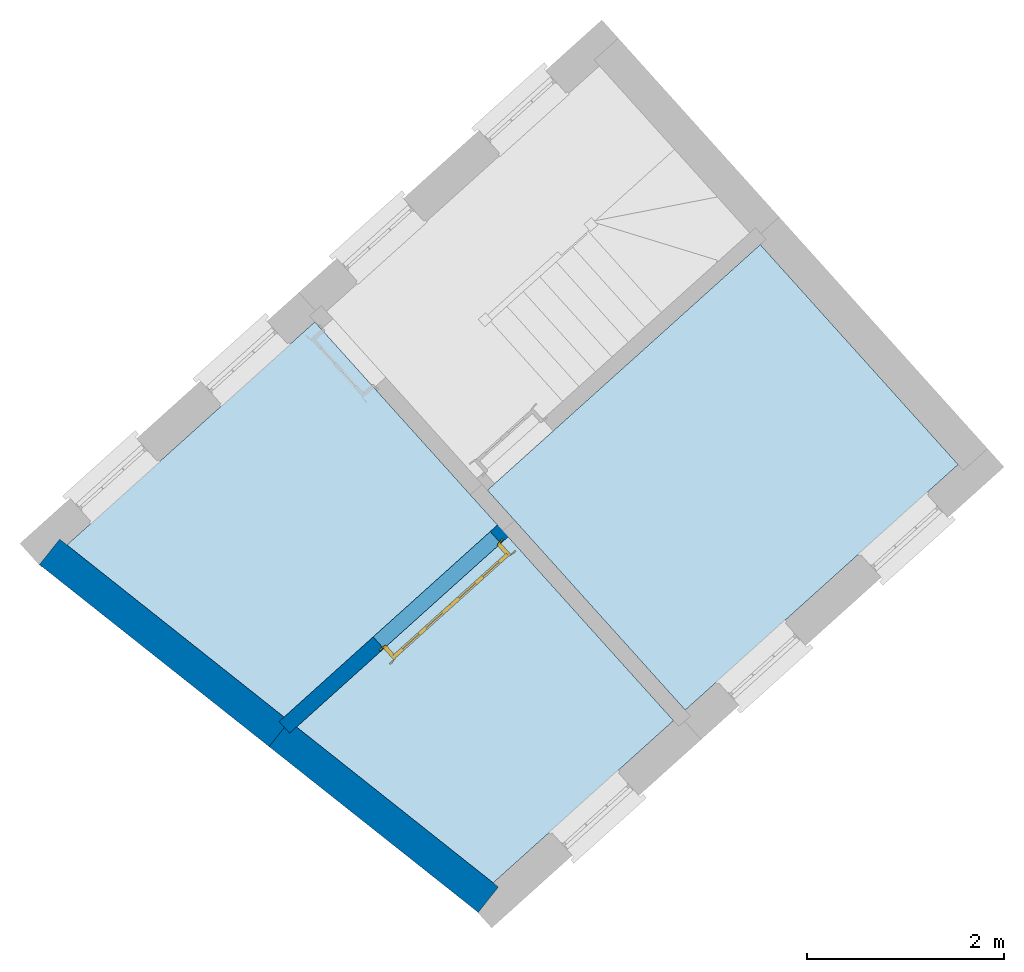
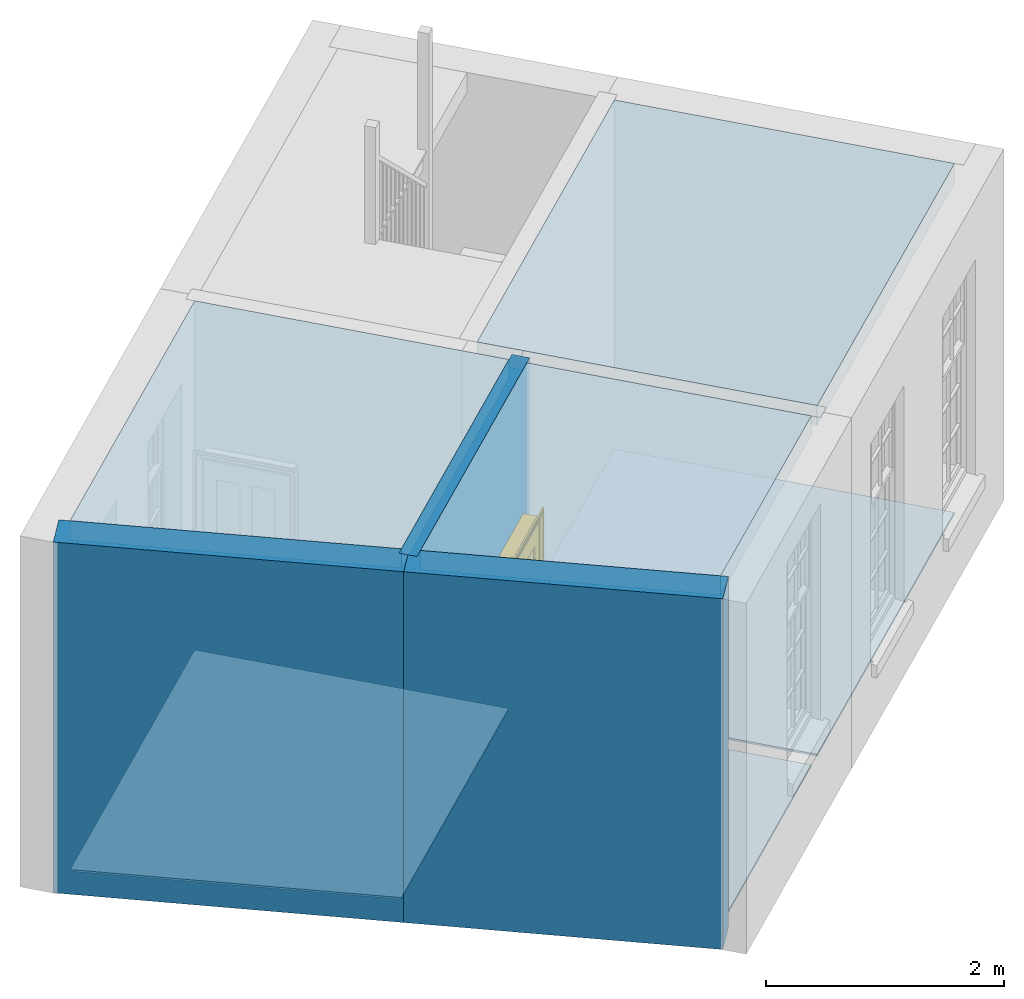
# One storey, part 1 of 4: 6 slabs, 3 walls, 1 door, 1 opening.
"""IFC4 building model written with IfcOpenShell, lengths in metres."""

from ifc_helpers import new_model, si_unit, frame, origin, origin_with_axes, place, context, subcontext, project, spatial, polyline, outline, extrude, faceted_brep, source, transform, mapped, material, layer, layer_set, layer_usage, type_object, type_shapes, element, fill, save


model = new_model("IFC4")

# Units and contexts
model_context = context("Model", 3, world=origin_with_axes())
body_context = subcontext(model_context, "Body", "Model", "MODEL_VIEW")
ifc_project = project(units=[si_unit("PLANEANGLEUNIT", "RADIAN"), si_unit("MASSUNIT", "GRAM", prefix="KILO"), si_unit("FORCEUNIT", "NEWTON", prefix="KILO"), si_unit("LENGTHUNIT", "METRE"), si_unit("AREAUNIT", "SQUARE_METRE"), si_unit("VOLUMEUNIT", "CUBIC_METRE")], contexts=[model_context, model_context])

# Sites, building, storey
site_1_placement = place(None, origin_with_axes())
site_1 = spatial("IfcSite", under=ifc_project, at=site_1_placement, Name="Tamar")
site_2_placement = place(site_1_placement, origin_with_axes())
site_2 = spatial("IfcSite", under=site_1, at=site_2_placement, Name="Site plot-6", CompositionType="ELEMENT")
building_placement = place(None, origin_with_axes())
building = spatial("IfcBuilding", under=site_2, at=building_placement, Name="Building plot-6", CompositionType="ELEMENT")
storey_placement = place(None, frame((0.0, 0.0, 28.1), z_axis=(0.0, 0.0, 1.0), x_axis=(1.0, 0.0, 0.0)))
storey = spatial("IfcBuildingStorey", under=building, at=storey_placement, Name="plot-6 1", CompositionType="ELEMENT", Elevation=28.1)

# Slabs
slab_1_placement = place(storey_placement, frame((238.531757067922, 282.862532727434, 3.4)))
element("IfcSlab", 1, at=slab_1_placement, inside=storey, Name="My Slab", ObjectType="Slab", PredefinedType="FLOOR", context=body_context, shape_type="SweptSolid", body=[
    extrude(outline(polyline([(0.0, 0.0), (-2.77333065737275, -2.49524804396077), (-0.762267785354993, -4.7304335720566), (2.01106287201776, -2.23518552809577), (0.0, 0.0)])), origin_with_axes(), (0.0, 0.0, 1.0), 0.2),
])
slab_2_placement = place(storey_placement, frame((238.531757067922, 282.862532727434, 0.0)))
element("IfcSlab", 2, at=slab_2_placement, inside=storey, Name="My Slab", ObjectType="Slab", PredefinedType="FLOOR", context=body_context, shape_type="SweptSolid", body=[
    extrude(outline(polyline([(0.0, 0.0), (-2.77333065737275, -2.49524804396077), (-0.762267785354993, -4.7304335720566), (2.01106287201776, -2.23518552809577), (0.0, 0.0)])), origin_with_axes(), (0.0, 0.0, 1.0), 0.02),
])
slab_3_placement = place(storey_placement, frame((235.968900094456, 279.8941395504, 3.4)))
element("IfcSlab", 3, at=slab_3_placement, inside=storey, Name="My Slab", ObjectType="Slab", PredefinedType="FLOOR", context=body_context, shape_type="SweptSolid", body=[
    extrude(outline(polyline([(0.0, 0.0), (-2.14924424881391, -1.93373894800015), (-0.150864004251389, -3.51782084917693), (1.68164614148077, -1.86905699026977), (0.0, 0.0)])), origin_with_axes(), (0.0, 0.0, 1.0), 0.2),
])
slab_4_placement = place(storey_placement, frame((235.968900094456, 279.8941395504, 0.0)))
element("IfcSlab", 4, at=slab_4_placement, inside=storey, Name="My Slab", ObjectType="Slab", PredefinedType="FLOOR", context=body_context, shape_type="SweptSolid", body=[
    extrude(outline(polyline([(0.0, 0.0), (-2.14924424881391, -1.93373894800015), (-0.150864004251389, -3.51782084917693), (1.68164614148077, -1.86905699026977), (0.0, 0.0)])), origin_with_axes(), (0.0, 0.0, 1.0), 0.02),
])
slab_5_placement = place(storey_placement, frame((233.692482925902, 278.061208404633, 3.4)))
element("IfcSlab", 5, at=slab_5_placement, inside=storey, Name="My Slab", ObjectType="Slab", PredefinedType="FLOOR", context=body_context, shape_type="SweptSolid", body=[
    extrude(outline(polyline([(0.0, 0.0), (2.16940057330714, 1.9518741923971), (0.312366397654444, 4.01586531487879), (-2.20680220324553, 1.74929442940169), (0.0, 0.0)])), origin_with_axes(), (0.0, 0.0, 1.0), 0.2),
])
slab_6_placement = place(storey_placement, frame((233.692482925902, 278.061208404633, 0.0)))
element("IfcSlab", 6, at=slab_6_placement, inside=storey, Name="My Slab", ObjectType="Slab", PredefinedType="FLOOR", context=body_context, shape_type="SweptSolid", body=[
    extrude(outline(polyline([(0.0, 0.0), (2.16940057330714, 1.9518741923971), (0.312366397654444, 4.01586531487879), (-2.20680220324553, 1.74929442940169), (0.0, 0.0)])), origin_with_axes(), (0.0, 0.0, 1.0), 0.02),
])

# Walls
ifc_material_1 = material(Name="Masonry")
ifc_layer_1 = layer(ifc_material_1, 0.33, ventilated=False)
ifc_layer_set_1 = layer_set([ifc_layer_1], Name="party_0.08_0.25")
ifc_layer_usage_1 = layer_usage(ifc_layer_set_1, "AXIS2", "POSITIVE", -0.25)
wall_type_1 = type_object("IfcWallType", Name="party_0.08_0.25", PredefinedType="SOLIDWALL", material=ifc_layer_set_1)
wall_1_placement = place(storey_placement, frame((231.361774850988, 279.806635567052, 0.0), z_axis=(0.0, 0.0, 1.0), x_axis=(0.783658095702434, -0.621192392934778, 0.0)))
element("IfcWall", 7, at=wall_1_placement, inside=storey, type_object=wall_type_1, material=ifc_layer_usage_1, Name="party", context=body_context, shape_type="SweptSolid", body=[
    extrude(outline(polyline([(3.27339517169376e-15, 0.0800000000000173), (-1.11481545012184e-14, -0.249999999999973), (2.97830793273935, -0.249999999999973), (2.97830793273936, 0.0800000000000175), (3.27339517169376e-15, 0.0800000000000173)])), origin_with_axes(), (0.0, 0.0, 1.0), 3.6),
])
wall_2_placement = place(storey_placement, frame((233.695749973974, 277.956533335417, 0.0), z_axis=(0.0, 0.0, 1.0), x_axis=(0.783658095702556, -0.621192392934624, 0.0)))
element("IfcWall", 8, at=wall_2_placement, inside=storey, type_object=wall_type_1, material=ifc_layer_usage_1, Name="party", context=body_context, shape_type="SweptSolid", body=[
    extrude(outline(polyline([(1.90119167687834e-14, 0.0800000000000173), (-6.0220012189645e-14, -0.249999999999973), (2.71234761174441, -0.25), (2.71234761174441, 0.0799999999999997), (1.90119167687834e-14, 0.0800000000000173)])), origin_with_axes(), (0.0, 0.0, 1.0), 3.6),
])

# Wall, opening, door
ifc_material_2 = material(Name="Masonry")
ifc_layer_2 = layer(ifc_material_2, 0.16, ventilated=False)
ifc_layer_set_2 = layer_set([ifc_layer_2], Name="interior_0.08_0.08")
ifc_layer_usage_2 = layer_usage(ifc_layer_set_2, "AXIS2", "POSITIVE", -0.08)
wall_type_2 = type_object("IfcWallType", Name="interior_0.08_0.08", PredefinedType="SOLIDWALL", material=ifc_layer_set_2)
wall_3_placement = place(storey_placement, frame((235.974863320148, 280.007119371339, 0.0), z_axis=(0.0, 0.0, 1.0), x_axis=(-0.743394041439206, -0.668853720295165, 0.0)))
wall_3 = element("IfcWall", 9, at=wall_3_placement, inside=storey, type_object=wall_type_2, material=ifc_layer_usage_2, Name="interior", context=body_context, shape_type="SweptSolid", body=[
    extrude(outline(polyline([(1.4835647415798e-14, 0.0800000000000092), (-1.48454445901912e-14, -0.0800000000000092), (3.06582138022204, -0.0800000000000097), (3.06582138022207, 0.0800000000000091), (1.4835647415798e-14, 0.0800000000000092)])), origin_with_axes(), (0.0, 0.0, 1.0), 3.6),
])
opening_placement = place(wall_3_placement, frame((0.179999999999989, 0.0, 0.0199999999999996)))
opening = element("IfcOpeningElement", 10, at=opening_placement, cuts=wall_3, Name="My Opening", ObjectType="Opening", context=body_context, shape_type="SweptSolid", body=[
    extrude(outline(polyline([(0.0, -0.0999999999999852), (1.60000000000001, -0.09999999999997), (1.60000000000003, 1.10000000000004), (2.79776202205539e-14, 1.10000000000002), (0.0, -0.0999999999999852)])), origin_with_axes(), (0.0, 0.0, 1.0), 2.1),
])
door_type = type_object("IfcDoorType", Name="door_inside_double", OperationType="SINGLE_SWING_LEFT", PredefinedType="NOTDEFINED")
shared_shape = source(origin(), body_context, "Body", "Brep", [
    faceted_brep([(0.14, 0.307, 1.895), (0.14, 0.307, 0.82), (0.363, 0.307, 0.82), (0.363, 0.307, 1.895), (0.14, 0.292, 1.895), (0.14, 0.292, 0.82), (0.363, 0.292, 0.82), (0.363, 0.292, 1.895), (0.027, 0.292, 1.895), (0.027, 0.292, 0.82), (0.363, 0.292, 0.62), (0.14, 0.292, 0.62), (0.463, 0.292, 0.82), (0.463, 0.292, 1.895), (0.363, 0.292, 2.073), (0.14, 0.292, 2.073), (0.027, 0.292, 2.073), (0.027, 0.33, 1.895), (0.027, 0.33, 0.82), (0.027, 0.292, 0.62), (0.463, 0.292, 0.62), (0.14, 0.307, 0.62), (0.363, 0.307, 0.62), (0.463, 0.307, 0.82), (0.463, 0.307, 1.895), (0.463, 0.292, 2.073), (0.14, 0.33, 2.073), (0.363, 0.33, 2.073), (0.027, 0.33, 2.073), (0.14, 0.33, 1.895), (0.14, 0.33, 0.82), (0.027, 0.33, 0.62), (0.027, 0.292, 0.225), (0.14, 0.292, 0.225), (0.363, 0.292, 0.225), (0.463, 0.292, 0.225), (0.686, 0.292, 0.62), (0.686, 0.292, 0.82), (0.14, 0.307, 0.225), (0.363, 0.307, 0.225), (0.686, 0.307, 0.82), (0.686, 0.307, 1.895), (0.686, 0.292, 1.895), (0.686, 0.292, 2.073), (0.463, 0.33, 2.073), (0.363, 0.33, 1.895), (0.14, 0.315, 1.895), (0.14, 0.315, 0.82), (0.14, 0.33, 0.62), (0.027, 0.33, 0.225), (0.027, 0.292, 0.0), (0.14, 0.292, 0.0), (0.363, 0.292, 0.0), (0.463, 0.292, 0.0), (0.463, 0.307, 0.225), (0.463, 0.307, 0.62), (0.686, 0.307, 0.62), (0.799, 0.292, 0.62), (0.799, 0.292, 0.82), (0.799, 0.292, 1.895), (0.799, 0.292, 2.073), (0.686, 0.33, 2.073), (0.463, 0.33, 1.895), (0.363, 0.315, 1.895), (0.363, 0.315, 0.82), (0.363, 0.33, 0.82), (0.363, 0.33, 0.62), (0.14, 0.33, 0.225), (0.027, 0.33, 0.0), (0.14, 0.33, 0.0), (0.363, 0.33, 0.0), (0.463, 0.33, 0.0), (0.686, 0.292, 0.0), (0.686, 0.292, 0.225), (0.686, 0.307, 0.225), (0.799, 0.292, 0.225), (0.799, 0.33, 0.62), (0.799, 0.33, 0.82), (0.799, 0.33, 1.895), (0.799, 0.33, 2.073), (0.686, 0.33, 1.895), (0.463, 0.33, 0.82), (0.463, 0.33, 0.62), (0.363, 0.315, 0.62), (0.14, 0.315, 0.62), (0.14, 0.315, 0.225), (0.363, 0.33, 0.225), (0.463, 0.33, 0.225), (0.686, 0.33, 0.0), (0.799, 0.292, 0.0), (0.799, 0.33, 0.225), (0.686, 0.33, 0.62), (0.686, 0.33, 0.82), (0.686, 0.315, 1.895), (0.463, 0.315, 1.895), (0.463, 0.315, 0.82), (0.363, 0.315, 0.225), (0.686, 0.33, 0.225), (0.799, 0.33, 0.0), (0.686, 0.315, 0.82), (0.463, 0.315, 0.62), (0.463, 0.315, 0.225), (0.686, 0.315, 0.62), (0.686, 0.315, 0.225), (1.46, 0.33, 1.895), (1.237, 0.33, 1.895), (1.237, 0.33, 2.073), (1.46, 0.33, 2.073), (1.46, 0.315, 1.895), (1.237, 0.315, 1.895), (1.137, 0.33, 1.895), (1.137, 0.33, 2.073), (1.237, 0.292, 2.073), (1.46, 0.292, 2.073), (1.573, 0.33, 1.895), (1.573, 0.33, 2.073), (1.46, 0.33, 0.82), (1.46, 0.315, 0.82), (1.237, 0.315, 0.82), (1.237, 0.33, 0.82), (1.137, 0.33, 0.82), (0.914, 0.33, 2.073), (0.914, 0.33, 1.895), (1.137, 0.292, 2.073), (1.237, 0.292, 1.895), (1.46, 0.292, 1.895), (1.573, 0.292, 2.073), (1.573, 0.33, 0.82), (1.573, 0.292, 1.895), (1.237, 0.33, 0.62), (1.137, 0.33, 0.62), (1.137, 0.315, 0.82), (1.137, 0.315, 1.895), (0.914, 0.292, 2.073), (0.914, 0.315, 1.895), (0.801, 0.33, 2.073), (0.801, 0.33, 1.895), (1.137, 0.292, 1.895), (1.237, 0.307, 1.895), (1.46, 0.307, 1.895), (1.573, 0.292, 0.82), (1.573, 0.33, 0.62), (1.46, 0.33, 0.62), (1.237, 0.33, 0.225), (1.137, 0.33, 0.225), (0.914, 0.33, 0.82), (0.914, 0.33, 0.62), (0.914, 0.315, 0.82), (0.801, 0.292, 2.073), (0.914, 0.292, 1.895), (0.801, 0.33, 0.82), (0.801, 0.292, 1.895), (1.137, 0.292, 0.82), (1.237, 0.292, 0.82), (1.237, 0.307, 0.82), (1.46, 0.307, 0.82), (1.46, 0.292, 0.82), (1.573, 0.292, 0.62), (1.573, 0.33, 0.225), (1.46, 0.33, 0.225), (1.46, 0.315, 0.62), (1.237, 0.315, 0.62), (1.237, 0.33, 0.0), (1.137, 0.33, 0.0), (1.137, 0.315, 0.225), (1.137, 0.315, 0.62), (1.237, 0.315, 0.225), (0.914, 0.315, 0.62), (0.801, 0.33, 0.62), (0.914, 0.307, 1.895), (1.137, 0.307, 1.895), (0.801, 0.292, 0.82), (1.137, 0.292, 0.62), (1.237, 0.292, 0.62), (1.137, 0.307, 0.82), (1.46, 0.292, 0.62), (1.573, 0.292, 0.225), (1.573, 0.33, 0.0), (1.46, 0.33, 0.0), (1.46, 0.315, 0.225), (1.237, 0.292, 0.0), (1.137, 0.292, 0.0), (0.914, 0.33, 0.225), (0.914, 0.33, 0.0), (0.914, 0.315, 0.225), (0.801, 0.33, 0.225), (0.801, 0.292, 0.62), (0.914, 0.292, 0.82), (0.914, 0.307, 0.82), (1.137, 0.292, 0.225), (1.237, 0.292, 0.225), (0.914, 0.292, 0.62), (1.46, 0.292, 0.225), (1.573, 0.292, 0.0), (1.46, 0.292, 0.0), (0.914, 0.292, 0.0), (0.801, 0.33, 0.0), (0.801, 0.292, 0.225), (1.237, 0.307, 0.225), (1.237, 0.307, 0.62), (1.137, 0.307, 0.62), (1.137, 0.307, 0.225), (1.46, 0.307, 0.62), (0.914, 0.307, 0.62), (1.46, 0.307, 0.225), (0.914, 0.292, 0.225), (0.801, 0.292, 0.0), (0.914, 0.307, 0.225), (0.02, 0.335, 0.0), (0.005, 0.34, 0.0), (0.005, 0.34, 2.095), (0.02, 0.335, 2.08), (0.02, 0.33, 0.0), (0.0, 0.335, 0.0), (0.0, 0.335, 2.1), (1.595, 0.34, 2.095), (1.58, 0.335, 2.08), (0.02, 0.33, 2.08), (0.0, 0.33, 0.0), (-0.032, 0.345, 0.0), (-0.032, 0.345, 2.132), (1.6, 0.335, 2.1), (1.595, 0.34, 0.0), (1.58, 0.335, 0.0), (1.58, 0.33, 2.08), (0.025, 0.33, 0.0), (0.025, 0.33, 2.075), (-0.04, 0.34, 0.0), (0.025, 0.29, 0.0), (0.0, 0.17, 0.0), (-0.04, 0.34, 2.14), (1.632, 0.345, 2.132), (1.6, 0.335, 0.0), (1.58, 0.33, 0.0), (1.575, 0.33, 2.075), (0.025, 0.29, 2.075), (-0.06, 0.33, 0.0), (0.035, 0.17, 0.0), (0.0, 0.17, 2.1), (0.0, 0.33, 2.1), (-0.04, 0.345, 0.0), (-0.04, 0.345, 2.14), (1.64, 0.34, 2.14), (1.632, 0.345, 0.0), (1.6, 0.33, 0.0), (1.575, 0.33, 0.0), (1.575, 0.29, 2.075), (0.04, 0.29, 0.0), (0.04, 0.29, 2.06), (-0.06, 0.345, 0.0), (-0.06, 0.33, 2.16), (0.015, 0.165, 0.0), (0.04, 0.17, 0.0), (-0.045, 0.17, 2.145), (-0.045, 0.17, 0.0), (1.6, 0.17, 2.1), (1.6, 0.33, 2.1), (-0.06, 0.345, 2.16), (1.64, 0.345, 2.14), (1.64, 0.34, 0.0), (1.6, 0.17, 0.0), (1.575, 0.29, 0.0), (1.56, 0.29, 2.06), (0.04, 0.17, 2.06), (1.66, 0.33, 2.16), (-0.017, 0.155, 0.0), (-0.025, 0.16, 0.0), (0.02, 0.16, 0.0), (0.035, 0.165, 0.0), (0.035, 0.17, 2.065), (1.645, 0.17, 2.145), (-0.045, 0.155, 2.145), (-0.045, 0.155, 0.0), (1.66, 0.345, 2.16), (1.64, 0.345, 0.0), (1.66, 0.33, 0.0), (1.565, 0.17, 0.0), (1.56, 0.29, 0.0), (1.56, 0.17, 2.06), (-0.017, 0.155, 2.117), (-0.025, 0.16, 2.125), (0.015, 0.165, 2.085), (0.02, 0.16, 2.08), (0.035, 0.165, 2.065), (1.565, 0.17, 2.065), (1.645, 0.17, 0.0), (1.645, 0.155, 2.145), (-0.025, 0.155, 0.0), (1.66, 0.345, 0.0), (1.585, 0.165, 0.0), (1.56, 0.17, 0.0), (1.617, 0.155, 2.117), (1.625, 0.16, 2.125), (-0.025, 0.155, 2.125), (1.585, 0.165, 2.085), (1.58, 0.16, 2.08), (1.565, 0.165, 2.065), (1.625, 0.16, 0.0), (1.645, 0.155, 0.0), (1.625, 0.155, 2.125), (1.617, 0.155, 0.0), (1.565, 0.165, 0.0), (1.58, 0.16, 0.0), (1.625, 0.155, 0.0)], [[[0, 1, 2, 3]], [[1, 0, 4, 5]], [[2, 1, 5, 6]], [[6, 7, 3, 2]], [[7, 4, 0, 3]], [[4, 8, 9, 5]], [[10, 6, 5, 11]], [[6, 12, 13, 7]], [[14, 15, 4, 7]], [[15, 16, 8, 4]], [[9, 8, 17, 18]], [[5, 9, 19, 11]], [[10, 20, 12, 6]], [[10, 11, 21, 22]], [[13, 12, 23, 24]], [[7, 13, 25, 14]], [[26, 15, 14, 27]], [[28, 16, 15, 26]], [[8, 16, 28, 17]], [[17, 29, 30, 18]], [[18, 31, 19, 9]], [[11, 19, 32, 33]], [[34, 35, 20, 10]], [[20, 36, 37, 12]], [[11, 33, 38, 21]], [[39, 22, 21, 38]], [[34, 10, 22, 39]], [[12, 37, 40, 23]], [[24, 23, 40, 41]], [[42, 13, 24, 41]], [[13, 42, 43, 25]], [[14, 25, 44, 27]], [[26, 27, 45, 29]], [[28, 26, 29, 17]], [[30, 29, 46, 47]], [[18, 30, 48, 31]], [[31, 49, 32, 19]], [[33, 32, 50, 51]], [[52, 53, 35, 34]], [[20, 35, 54, 55]], [[36, 20, 55, 56]], [[36, 57, 58, 37]], [[33, 34, 39, 38]], [[37, 42, 41, 40]], [[42, 59, 60, 43]], [[44, 25, 43, 61]], [[62, 45, 27, 44]], [[29, 45, 63, 46]], [[46, 63, 64, 47]], [[65, 30, 47, 64]], [[30, 65, 66, 48]], [[31, 48, 67, 49]], [[68, 50, 32, 49]], [[68, 69, 51, 50]], [[34, 33, 51, 52]], [[53, 52, 70, 71]], [[53, 72, 73, 35]], [[35, 73, 74, 54]], [[55, 54, 74, 56]], [[73, 36, 56, 74]], [[73, 75, 57, 36]], [[57, 76, 77, 58]], [[37, 58, 59, 42]], [[78, 79, 60, 59]], [[60, 79, 61, 43]], [[80, 62, 44, 61]], [[81, 65, 45, 62]], [[45, 65, 64, 63]], [[82, 66, 65, 81]], [[48, 66, 83, 84]], [[67, 48, 84, 85]], [[49, 67, 69, 68]], [[52, 51, 69, 70]], [[71, 70, 86, 87]], [[72, 53, 71, 88]], [[72, 89, 75, 73]], [[75, 90, 76, 57]], [[76, 91, 92, 77]], [[78, 59, 58, 77]], [[78, 80, 61, 79]], [[62, 80, 93, 94]], [[81, 62, 94, 95]], [[87, 86, 66, 82]], [[91, 82, 81, 92]], [[66, 86, 96, 83]], [[84, 83, 96, 85]], [[86, 67, 85, 96]], [[67, 86, 70, 69]], [[88, 71, 87, 97]], [[89, 72, 88, 98]], [[89, 98, 90, 75]], [[90, 97, 91, 76]], [[80, 78, 77, 92]], [[80, 92, 99, 93]], [[99, 95, 94, 93]], [[92, 81, 95, 99]], [[87, 82, 100, 101]], [[82, 91, 102, 100]], [[97, 87, 101, 103]], [[98, 88, 97, 90]], [[91, 97, 103, 102]], [[103, 101, 100, 102]], [[104, 105, 106, 107]], [[105, 104, 108, 109]], [[105, 110, 111, 106]], [[106, 112, 113, 107]], [[114, 104, 107, 115]], [[104, 116, 117, 108]], [[117, 118, 109, 108]], [[119, 105, 109, 118]], [[119, 120, 110, 105]], [[121, 111, 110, 122]], [[123, 112, 106, 111]], [[124, 125, 113, 112]], [[126, 115, 107, 113]], [[104, 114, 127, 116]], [[114, 115, 126, 128]], [[116, 119, 118, 117]], [[129, 130, 120, 119]], [[110, 120, 131, 132]], [[121, 133, 123, 111]], [[122, 110, 132, 134]], [[135, 121, 122, 136]], [[137, 124, 112, 123]], [[125, 124, 138, 139]], [[125, 128, 126, 113]], [[114, 128, 140, 127]], [[141, 142, 116, 127]], [[142, 129, 119, 116]], [[143, 144, 130, 129]], [[145, 120, 130, 146]], [[120, 145, 147, 131]], [[134, 132, 131, 147]], [[135, 148, 133, 121]], [[123, 133, 149, 137]], [[145, 122, 134, 147]], [[136, 122, 145, 150]], [[151, 148, 135, 136]], [[152, 153, 124, 137]], [[124, 153, 154, 138]], [[138, 154, 155, 139]], [[156, 125, 139, 155]], [[156, 140, 128, 125]], [[157, 141, 127, 140]], [[158, 159, 142, 141]], [[129, 142, 160, 161]], [[162, 163, 144, 143]], [[130, 144, 164, 165]], [[143, 129, 161, 166]], [[146, 130, 165, 167]], [[150, 145, 146, 168]], [[133, 148, 151, 149]], [[137, 149, 169, 170]], [[171, 151, 136, 150]], [[172, 173, 153, 152]], [[152, 137, 170, 174]], [[153, 156, 155, 154]], [[175, 157, 140, 156]], [[176, 158, 141, 157]], [[177, 178, 159, 158]], [[142, 159, 179, 160]], [[179, 166, 161, 160]], [[180, 181, 163, 162]], [[182, 144, 163, 183]], [[178, 162, 143, 159]], [[144, 182, 184, 164]], [[167, 165, 164, 184]], [[159, 143, 166, 179]], [[182, 146, 167, 184]], [[168, 146, 182, 185]], [[150, 168, 186, 171]], [[149, 151, 171, 187]], [[149, 187, 188, 169]], [[169, 188, 174, 170]], [[189, 190, 173, 172]], [[173, 175, 156, 153]], [[172, 152, 187, 191]], [[187, 152, 174, 188]], [[192, 176, 157, 175]], [[193, 177, 158, 176]], [[193, 194, 178, 177]], [[181, 180, 190, 189]], [[181, 195, 183, 163]], [[194, 180, 162, 178]], [[185, 182, 183, 196]], [[168, 185, 197, 186]], [[187, 171, 186, 191]], [[173, 190, 198, 199]], [[189, 172, 200, 201]], [[175, 173, 199, 202]], [[172, 191, 203, 200]], [[194, 193, 176, 192]], [[192, 175, 202, 204]], [[180, 194, 192, 190]], [[189, 205, 195, 181]], [[196, 183, 195, 206]], [[196, 206, 197, 185]], [[191, 186, 197, 205]], [[190, 192, 204, 198]], [[199, 198, 204, 202]], [[201, 200, 203, 207]], [[205, 189, 201, 207]], [[191, 205, 207, 203]], [[205, 197, 206, 195]], [[208, 209, 210, 211]], [[208, 212, 213, 209]], [[209, 213, 214, 210]], [[211, 210, 215, 216]], [[211, 217, 212, 208]], [[218, 213, 212]], [[213, 219, 220, 214]], [[210, 214, 221, 215]], [[216, 215, 222, 223]], [[217, 211, 216, 224]], [[225, 212, 217, 226]], [[219, 213, 218, 227]], [[218, 212, 228, 229]], [[219, 227, 230, 220]], [[214, 220, 231, 221]], [[215, 221, 232, 222]], [[222, 232, 233, 223]], [[224, 216, 223, 233]], [[226, 217, 224, 234]], [[225, 228, 212]], [[235, 228, 225, 226]], [[236, 227, 218]], [[237, 229, 228]], [[229, 238, 239, 218]], [[227, 240, 241, 230]], [[220, 230, 242, 231]], [[221, 231, 243, 232]], [[244, 233, 232]], [[234, 224, 233, 245]], [[246, 235, 226, 234]], [[247, 228, 235, 248]], [[240, 227, 236, 249]], [[239, 250, 236, 218]], [[251, 229, 237]], [[252, 237, 228, 247]], [[253, 238, 229, 254]], [[238, 255, 256, 239]], [[241, 240, 257]], [[230, 241, 258, 242]], [[231, 242, 259, 243]], [[259, 244, 232, 243]], [[260, 261, 233, 244]], [[245, 233, 261]], [[261, 246, 234, 245]], [[248, 235, 246, 262]], [[248, 263, 252, 247]], [[250, 257, 249, 236]], [[240, 249, 257]], [[256, 264, 250, 239]], [[265, 266, 229, 251]], [[267, 251, 237, 268]], [[263, 269, 237, 252]], [[270, 255, 238, 253]], [[229, 266, 254]], [[271, 253, 254, 272]], [[256, 255, 260, 244]], [[273, 241, 257]], [[273, 258, 241]], [[242, 258, 274, 259]], [[275, 244, 259]], [[260, 276, 261]], [[261, 277, 262, 246]], [[262, 278, 263, 248]], [[264, 273, 257, 250]], [[244, 275, 264, 256]], [[266, 265, 279, 280]], [[265, 251, 281, 279]], [[251, 267, 282, 281]], [[269, 283, 268, 237]], [[267, 268, 283, 282]], [[278, 284, 269, 263]], [[285, 260, 255, 270]], [[286, 270, 253, 271]], [[272, 254, 266, 287]], [[271, 272, 287]], [[273, 274, 258]], [[288, 275, 259, 274]], [[276, 260, 289]], [[277, 261, 276, 290]], [[278, 262, 277, 290]], [[275, 288, 273, 264]], [[280, 279, 291, 292]], [[287, 266, 280, 293]], [[279, 281, 294, 291]], [[281, 282, 295, 294]], [[284, 296, 283, 269]], [[282, 283, 296, 295]], [[290, 276, 284, 278]], [[285, 297, 260]], [[298, 285, 270, 286]], [[299, 286, 271]], [[271, 287, 293]], [[273, 288, 274]], [[300, 289, 260, 297]], [[301, 276, 289, 302]], [[292, 291, 300, 297]], [[293, 280, 292, 299]], [[291, 294, 289, 300]], [[294, 295, 302, 289]], [[296, 284, 276, 301]], [[295, 296, 301, 302]], [[303, 297, 285, 298]], [[299, 298, 286]], [[271, 293, 299]], [[299, 292, 297, 303]], [[299, 303, 298]]]),
])
type_shapes(door_type, [shared_shape])
door_placement = place(storey_placement, frame((235.774167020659, 279.96106510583, 0.0199999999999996), z_axis=(0.0, 0.0, 1.0), x_axis=(-1.18943046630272, -1.07016595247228, 0.0)))
door = element("IfcDoor", 11, at=door_placement, inside=storey, type_object=door_type, Name="kitchen living inside door", OverallHeight=2.1, OverallWidth=1.6, context=body_context, shape_type="MappedRepresentation", body=[
    mapped(shared_shape, transform((0.0, 0.0, 0.0), scale=1.0)),
])
fill(opening, door)

save(model, "model.ifc")
